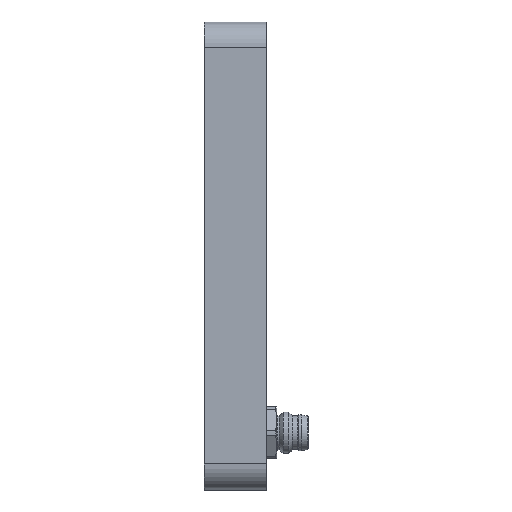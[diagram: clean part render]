
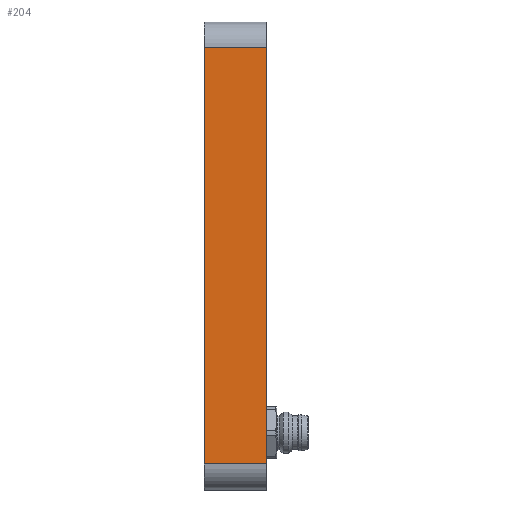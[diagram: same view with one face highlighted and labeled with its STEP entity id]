
A CAD part, left-side view. The second image highlights one B-rep face of the part: STEP entity #204.
In plain terms, the highlighted planar face has unit normal (-1, 0, 0).
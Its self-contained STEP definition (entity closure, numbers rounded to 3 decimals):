
#16 = LINE ( 'NONE', #4064, #709 ) ;
#30 = DIRECTION ( 'NONE',  ( 0., 0., 1. ) ) ;
#112 = VECTOR ( 'NONE', #30, 1000. ) ;
#204 = ADVANCED_FACE ( 'NONE', ( #2355 ), #3814, .F. ) ;
#319 = DIRECTION ( 'NONE',  ( 0., -1., 0. ) ) ;
#618 = VERTEX_POINT ( 'NONE', #1336 ) ;
#709 = VECTOR ( 'NONE', #319, 1000. ) ;
#741 = CARTESIAN_POINT ( 'NONE',  ( -151.419, -10.591, 95. ) ) ;
#821 = CARTESIAN_POINT ( 'NONE',  ( -151.419, -10.591, 90. ) ) ;
#1055 = CARTESIAN_POINT ( 'NONE',  ( -151.419, -10.591, 90. ) ) ;
#1093 = DIRECTION ( 'NONE',  ( 0., 0., 1. ) ) ;
#1214 = LINE ( 'NONE', #2052, #3076 ) ;
#1237 = VECTOR ( 'NONE', #2366, 1000. ) ;
#1336 = CARTESIAN_POINT ( 'NONE',  ( -151.419, -10.591, 10. ) ) ;
#1501 = EDGE_CURVE ( 'NONE', #3766, #3328, #1897, .T. ) ;
#1686 = DIRECTION ( 'NONE',  ( 1., 0., 0. ) ) ;
#1701 = ORIENTED_EDGE ( 'NONE', *, *, #1880, .T. ) ;
#1717 = DIRECTION ( 'NONE',  ( 0., 0., -1. ) ) ;
#1742 = CARTESIAN_POINT ( 'NONE',  ( -151.419, -22.591, 10. ) ) ;
#1768 = VERTEX_POINT ( 'NONE', #1742 ) ;
#1880 = EDGE_CURVE ( 'NONE', #618, #1768, #16, .T. ) ;
#1897 = LINE ( 'NONE', #821, #1237 ) ;
#1950 = CARTESIAN_POINT ( 'NONE',  ( -151.419, -10.591, 95. ) ) ;
#2052 = CARTESIAN_POINT ( 'NONE',  ( -151.419, -22.591, 95. ) ) ;
#2355 = FACE_OUTER_BOUND ( 'NONE', #2836, .T. ) ;
#2366 = DIRECTION ( 'NONE',  ( 0., 1., 0. ) ) ;
#2542 = EDGE_CURVE ( 'NONE', #618, #3328, #4044, .T. ) ;
#2821 = AXIS2_PLACEMENT_3D ( 'NONE', #741, #1686, #1717 ) ;
#2836 = EDGE_LOOP ( 'NONE', ( #3338, #1701, #3478, #3131 ) ) ;
#3076 = VECTOR ( 'NONE', #1093, 1000. ) ;
#3131 = ORIENTED_EDGE ( 'NONE', *, *, #1501, .T. ) ;
#3328 = VERTEX_POINT ( 'NONE', #1055 ) ;
#3338 = ORIENTED_EDGE ( 'NONE', *, *, #2542, .F. ) ;
#3478 = ORIENTED_EDGE ( 'NONE', *, *, #4034, .T. ) ;
#3484 = CARTESIAN_POINT ( 'NONE',  ( -151.419, -22.591, 90. ) ) ;
#3766 = VERTEX_POINT ( 'NONE', #3484 ) ;
#3814 = PLANE ( 'NONE',  #2821 ) ;
#4034 = EDGE_CURVE ( 'NONE', #1768, #3766, #1214, .T. ) ;
#4044 = LINE ( 'NONE', #1950, #112 ) ;
#4064 = CARTESIAN_POINT ( 'NONE',  ( -151.419, -10.591, 10. ) ) ;
